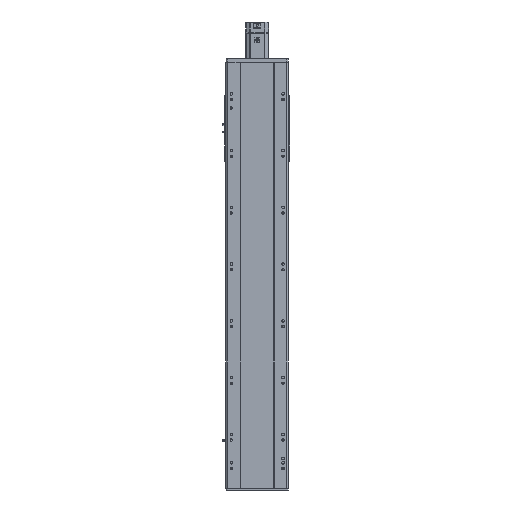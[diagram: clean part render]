
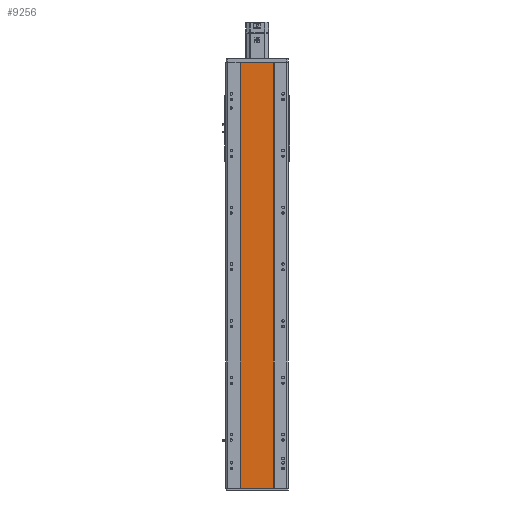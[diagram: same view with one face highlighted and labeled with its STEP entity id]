
A CAD part, front view. The second image highlights one B-rep face of the part: STEP entity #9256.
In plain terms, the highlighted planar face has unit normal (0, -1, 0).
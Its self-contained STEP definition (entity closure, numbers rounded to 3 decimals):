
#2215 = CARTESIAN_POINT ( 'NONE',  ( -59., 1., 750.5 ) ) ;
#3855 = DIRECTION ( 'NONE',  ( -1., 0., 0. ) ) ;
#4210 = FACE_OUTER_BOUND ( 'NONE', #24401, .T. ) ;
#6406 = VECTOR ( 'NONE', #26816, 1000. ) ;
#6781 = LINE ( 'NONE', #38036, #34999 ) ;
#6814 = CARTESIAN_POINT ( 'NONE',  ( 59., 1., 750.5 ) ) ;
#7068 = CARTESIAN_POINT ( 'NONE',  ( 59., 1., -750.5 ) ) ;
#7851 = LINE ( 'NONE', #8155, #32773 ) ;
#8155 = CARTESIAN_POINT ( 'NONE',  ( -59., 1., -750.5 ) ) ;
#9256 = ADVANCED_FACE ( 'NONE', ( #4210 ), #25257, .F. ) ;
#9305 = CARTESIAN_POINT ( 'NONE',  ( 59., 1., 750.5 ) ) ;
#9577 = CARTESIAN_POINT ( 'NONE',  ( -59., 1., -750.5 ) ) ;
#11675 = LINE ( 'NONE', #6814, #35146 ) ;
#12004 = VERTEX_POINT ( 'NONE', #7068 ) ;
#12207 = VERTEX_POINT ( 'NONE', #2215 ) ;
#13568 = LINE ( 'NONE', #24155, #6406 ) ;
#14033 = DIRECTION ( 'NONE',  ( 1., 0., 0. ) ) ;
#15674 = AXIS2_PLACEMENT_3D ( 'NONE', #22465, #31664, #3855 ) ;
#19265 = DIRECTION ( 'NONE',  ( 0., 0., -1. ) ) ;
#22465 = CARTESIAN_POINT ( 'NONE',  ( -59., 1., 750.5 ) ) ;
#24155 = CARTESIAN_POINT ( 'NONE',  ( -59., 1., 750.5 ) ) ;
#24401 = EDGE_LOOP ( 'NONE', ( #35621, #25753, #29839, #37666 ) ) ;
#25257 = PLANE ( 'NONE',  #15674 ) ;
#25753 = ORIENTED_EDGE ( 'NONE', *, *, #26091, .F. ) ;
#26091 = EDGE_CURVE ( 'NONE', #30306, #12004, #11675, .T. ) ;
#26816 = DIRECTION ( 'NONE',  ( 1., 0., 0. ) ) ;
#28070 = DIRECTION ( 'NONE',  ( 0., 0., -1. ) ) ;
#28550 = EDGE_CURVE ( 'NONE', #12207, #34341, #6781, .T. ) ;
#29839 = ORIENTED_EDGE ( 'NONE', *, *, #39102, .F. ) ;
#30306 = VERTEX_POINT ( 'NONE', #9305 ) ;
#31664 = DIRECTION ( 'NONE',  ( 0., 1., 0. ) ) ;
#32773 = VECTOR ( 'NONE', #14033, 1000. ) ;
#34341 = VERTEX_POINT ( 'NONE', #9577 ) ;
#34999 = VECTOR ( 'NONE', #19265, 1000. ) ;
#35146 = VECTOR ( 'NONE', #28070, 1000. ) ;
#35621 = ORIENTED_EDGE ( 'NONE', *, *, #38865, .T. ) ;
#37666 = ORIENTED_EDGE ( 'NONE', *, *, #28550, .T. ) ;
#38036 = CARTESIAN_POINT ( 'NONE',  ( -59., 1., 750.5 ) ) ;
#38865 = EDGE_CURVE ( 'NONE', #34341, #12004, #7851, .T. ) ;
#39102 = EDGE_CURVE ( 'NONE', #12207, #30306, #13568, .T. ) ;
